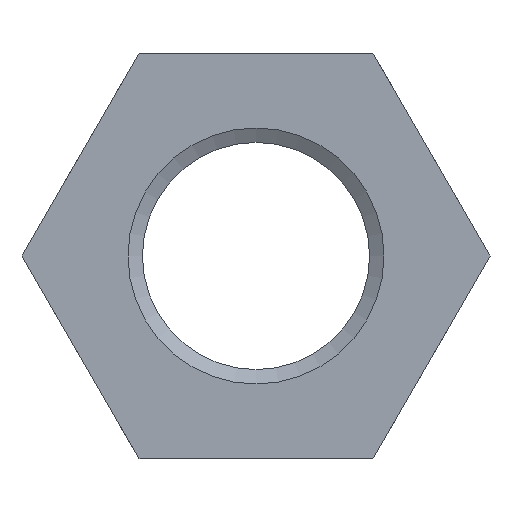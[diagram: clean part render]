
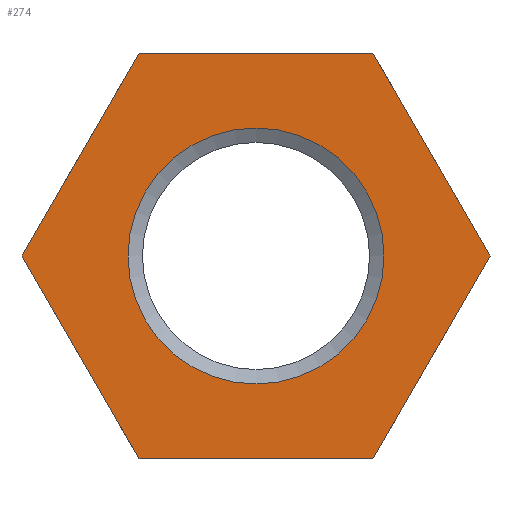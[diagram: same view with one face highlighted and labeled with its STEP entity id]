
A CAD part, left-side view. The second image highlights one B-rep face of the part: STEP entity #274.
In plain terms, the highlighted planar face has unit normal (-1, 0, 0).
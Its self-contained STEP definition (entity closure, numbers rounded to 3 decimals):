
#16=FACE_BOUND('',#89,.T.);
#19=LINE('',#466,#34);
#22=LINE('',#471,#37);
#24=LINE('',#475,#39);
#26=LINE('',#479,#41);
#30=LINE('',#499,#45);
#31=LINE('',#500,#46);
#34=VECTOR('',#357,10.);
#37=VECTOR('',#362,10.);
#39=VECTOR('',#366,10.);
#41=VECTOR('',#370,10.);
#45=VECTOR('',#394,10.);
#46=VECTOR('',#395,10.);
#53=PLANE('',#325);
#70=FACE_OUTER_BOUND('',#88,.T.);
#88=EDGE_LOOP('',(#235,#236,#237,#238,#239,#240));
#89=EDGE_LOOP('',(#241));
#102=CIRCLE('',#324,6.);
#127=VERTEX_POINT('',#463);
#128=VERTEX_POINT('',#465);
#129=VERTEX_POINT('',#469);
#130=VERTEX_POINT('',#473);
#131=VERTEX_POINT('',#477);
#136=VERTEX_POINT('',#494);
#137=VERTEX_POINT('',#498);
#157=EDGE_CURVE('',#128,#127,#19,.T.);
#160=EDGE_CURVE('',#127,#129,#22,.T.);
#162=EDGE_CURVE('',#129,#130,#24,.T.);
#164=EDGE_CURVE('',#130,#131,#26,.T.);
#171=EDGE_CURVE('',#136,#136,#102,.T.);
#173=EDGE_CURVE('',#131,#137,#30,.T.);
#174=EDGE_CURVE('',#137,#128,#31,.T.);
#235=ORIENTED_EDGE('',*,*,#160,.T.);
#236=ORIENTED_EDGE('',*,*,#162,.T.);
#237=ORIENTED_EDGE('',*,*,#164,.T.);
#238=ORIENTED_EDGE('',*,*,#173,.T.);
#239=ORIENTED_EDGE('',*,*,#174,.T.);
#240=ORIENTED_EDGE('',*,*,#157,.T.);
#241=ORIENTED_EDGE('',*,*,#171,.F.);
#274=ADVANCED_FACE('',(#70,#16),#53,.F.);
#324=AXIS2_PLACEMENT_3D('',#495,#389,#390);
#325=AXIS2_PLACEMENT_3D('',#497,#392,#393);
#357=DIRECTION('',(0.,0.5,-0.866));
#362=DIRECTION('',(0.,-0.5,-0.866));
#366=DIRECTION('',(0.,-1.,0.));
#370=DIRECTION('',(0.,-0.5,0.866));
#389=DIRECTION('center_axis',(-1.,0.,0.));
#390=DIRECTION('ref_axis',(0.,0.,-1.));
#392=DIRECTION('center_axis',(1.,0.,0.));
#393=DIRECTION('ref_axis',(0.,0.,-1.));
#394=DIRECTION('',(0.,0.5,0.866));
#395=DIRECTION('',(0.,1.,0.));
#463=CARTESIAN_POINT('',(0.,10.97,0.));
#465=CARTESIAN_POINT('',(0.,5.485,9.5));
#466=CARTESIAN_POINT('',(0.,5.485,9.5));
#469=CARTESIAN_POINT('',(0.,5.485,-9.5));
#471=CARTESIAN_POINT('',(0.,10.97,0.));
#473=CARTESIAN_POINT('',(0.,-5.485,-9.5));
#475=CARTESIAN_POINT('',(0.,5.485,-9.5));
#477=CARTESIAN_POINT('',(0.,-10.97,0.));
#479=CARTESIAN_POINT('',(0.,-5.485,-9.5));
#494=CARTESIAN_POINT('',(0.,0.,6.));
#495=CARTESIAN_POINT('Origin',(0.,0.,0.));
#497=CARTESIAN_POINT('Origin',(0.,0.,0.));
#498=CARTESIAN_POINT('',(0.,-5.485,9.5));
#499=CARTESIAN_POINT('',(0.,-10.97,0.));
#500=CARTESIAN_POINT('',(0.,-5.485,9.5));
